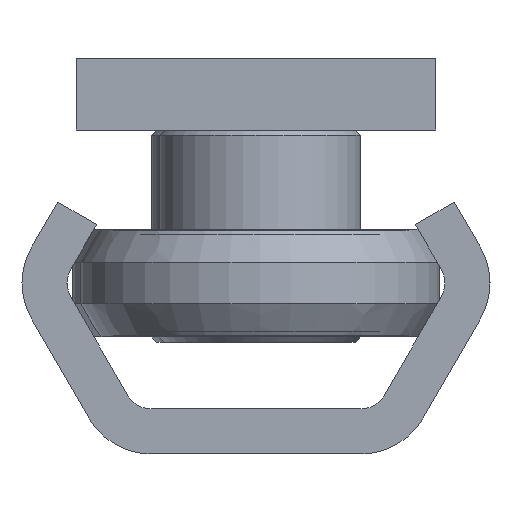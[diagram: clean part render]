
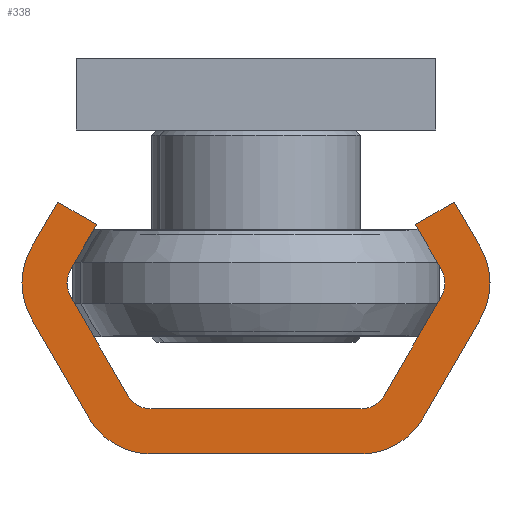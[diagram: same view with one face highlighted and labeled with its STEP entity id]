
A CAD part, left-side view. The second image highlights one B-rep face of the part: STEP entity #338.
In plain terms, the highlighted planar face has unit normal (-1, 0, 0).
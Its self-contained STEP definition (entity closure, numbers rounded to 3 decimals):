
#338 = ADVANCED_FACE( '', ( #732 ), #733, .F. );
#732 = FACE_OUTER_BOUND( '', #1316, .T. );
#733 = PLANE( '', #1317 );
#1316 = EDGE_LOOP( '', ( #2149, #2150, #2151, #2152, #2153, #2154, #2155, #2156, #2157, #2158, #2159, #2160, #2161, #2162, #2163, #2164, #2165, #2166, #2167, #2168 ) );
#1317 = AXIS2_PLACEMENT_3D( '', #2169, #2170, #2171 );
#2149 = ORIENTED_EDGE( '', *, *, #3267, .F. );
#2150 = ORIENTED_EDGE( '', *, *, #3257, .F. );
#2151 = ORIENTED_EDGE( '', *, *, #3268, .F. );
#2152 = ORIENTED_EDGE( '', *, *, #3269, .F. );
#2153 = ORIENTED_EDGE( '', *, *, #3270, .F. );
#2154 = ORIENTED_EDGE( '', *, *, #3271, .F. );
#2155 = ORIENTED_EDGE( '', *, *, #3272, .F. );
#2156 = ORIENTED_EDGE( '', *, *, #3262, .T. );
#2157 = ORIENTED_EDGE( '', *, *, #3273, .F. );
#2158 = ORIENTED_EDGE( '', *, *, #3274, .T. );
#2159 = ORIENTED_EDGE( '', *, *, #3275, .F. );
#2160 = ORIENTED_EDGE( '', *, *, #3276, .T. );
#2161 = ORIENTED_EDGE( '', *, *, #3277, .F. );
#2162 = ORIENTED_EDGE( '', *, *, #3278, .T. );
#2163 = ORIENTED_EDGE( '', *, *, #3211, .F. );
#2164 = ORIENTED_EDGE( '', *, *, #3279, .F. );
#2165 = ORIENTED_EDGE( '', *, *, #3280, .F. );
#2166 = ORIENTED_EDGE( '', *, *, #3281, .F. );
#2167 = ORIENTED_EDGE( '', *, *, #3282, .F. );
#2168 = ORIENTED_EDGE( '', *, *, #3283, .F. );
#2169 = CARTESIAN_POINT( '', ( 0., -5.825, -4. ) );
#2170 = DIRECTION( '', ( 1., 0., 0. ) );
#2171 = DIRECTION( '', ( 0., 0., -1. ) );
#3211 = EDGE_CURVE( '', #3652, #3653, #3654, .T. );
#3257 = EDGE_CURVE( '', #3731, #3732, #3733, .T. );
#3262 = EDGE_CURVE( '', #3740, #3741, #3742, .T. );
#3267 = EDGE_CURVE( '', #3732, #3749, #3750, .T. );
#3268 = EDGE_CURVE( '', #3751, #3731, #3752, .T. );
#3269 = EDGE_CURVE( '', #3753, #3751, #3754, .T. );
#3270 = EDGE_CURVE( '', #3755, #3753, #3756, .T. );
#3271 = EDGE_CURVE( '', #3757, #3755, #3758, .T. );
#3272 = EDGE_CURVE( '', #3740, #3757, #3759, .T. );
#3273 = EDGE_CURVE( '', #3760, #3741, #3761, .T. );
#3274 = EDGE_CURVE( '', #3760, #3762, #3763, .T. );
#3275 = EDGE_CURVE( '', #3764, #3762, #3765, .T. );
#3276 = EDGE_CURVE( '', #3764, #3766, #3767, .T. );
#3277 = EDGE_CURVE( '', #3768, #3766, #3769, .T. );
#3278 = EDGE_CURVE( '', #3768, #3653, #3770, .T. );
#3279 = EDGE_CURVE( '', #3771, #3652, #3772, .T. );
#3280 = EDGE_CURVE( '', #3773, #3771, #3774, .T. );
#3281 = EDGE_CURVE( '', #3775, #3773, #3776, .T. );
#3282 = EDGE_CURVE( '', #3777, #3775, #3778, .T. );
#3283 = EDGE_CURVE( '', #3749, #3777, #3779, .T. );
#3652 = VERTEX_POINT( '', #4296 );
#3653 = VERTEX_POINT( '', #4297 );
#3654 = LINE( '', #4298, #4299 );
#3731 = VERTEX_POINT( '', #4394 );
#3732 = VERTEX_POINT( '', #4395 );
#3733 = CIRCLE( '', #4396, 4. );
#3740 = VERTEX_POINT( '', #4405 );
#3741 = VERTEX_POINT( '', #4406 );
#3742 = CIRCLE( '', #4407, 1.5 );
#3749 = VERTEX_POINT( '', #4416 );
#3750 = LINE( '', #4417, #4418 );
#3751 = VERTEX_POINT( '', #4419 );
#3752 = LINE( '', #4420, #4421 );
#3753 = VERTEX_POINT( '', #4422 );
#3754 = CIRCLE( '', #4423, 4. );
#3755 = VERTEX_POINT( '', #4424 );
#3756 = LINE( '', #4425, #4426 );
#3757 = VERTEX_POINT( '', #4427 );
#3758 = LINE( '', #4428, #4429 );
#3759 = LINE( '', #4430, #4431 );
#3760 = VERTEX_POINT( '', #4432 );
#3761 = LINE( '', #4433, #4434 );
#3762 = VERTEX_POINT( '', #4435 );
#3763 = CIRCLE( '', #4436, 1.5 );
#3764 = VERTEX_POINT( '', #4437 );
#3765 = LINE( '', #4438, #4439 );
#3766 = VERTEX_POINT( '', #4440 );
#3767 = CIRCLE( '', #4441, 1.5 );
#3768 = VERTEX_POINT( '', #4442 );
#3769 = LINE( '', #4443, #4444 );
#3770 = CIRCLE( '', #4445, 1.5 );
#3771 = VERTEX_POINT( '', #4446 );
#3772 = LINE( '', #4447, #4448 );
#3773 = VERTEX_POINT( '', #4449 );
#3774 = LINE( '', #4450, #4451 );
#3775 = VERTEX_POINT( '', #4452 );
#3776 = CIRCLE( '', #4453, 4. );
#3777 = VERTEX_POINT( '', #4454 );
#3778 = LINE( '', #4455, #4456 );
#3779 = CIRCLE( '', #4457, 4. );
#4296 = CARTESIAN_POINT( '', ( 0., -8.856, -12.75 ) );
#4297 = CARTESIAN_POINT( '', ( 0., -10.299, -10.25 ) );
#4298 = CARTESIAN_POINT( '', ( 0., -8.856, -12.75 ) );
#4299 = VECTOR( '', #5061, 1000. );
#4394 = CARTESIAN_POINT( '', ( 0., 9.289, -2. ) );
#4395 = CARTESIAN_POINT( '', ( 0., 5.825, 0. ) );
#4396 = AXIS2_PLACEMENT_3D( '', #5125, #5126, #5127 );
#4405 = CARTESIAN_POINT( '', ( 0., 10.299, -10.25 ) );
#4406 = CARTESIAN_POINT( '', ( 0., 10.299, -8.75 ) );
#4407 = AXIS2_PLACEMENT_3D( '', #5133, #5134, #5135 );
#4416 = CARTESIAN_POINT( '', ( 0., -5.825, 0. ) );
#4417 = CARTESIAN_POINT( '', ( 0., 5.825, 0. ) );
#4418 = VECTOR( '', #5141, 1000. );
#4419 = CARTESIAN_POINT( '', ( 0., 12.464, -7.5 ) );
#4420 = CARTESIAN_POINT( '', ( 0., 12.464, -7.5 ) );
#4421 = VECTOR( '', #5142, 1000. );
#4422 = CARTESIAN_POINT( '', ( 0., 12.464, -11.5 ) );
#4423 = AXIS2_PLACEMENT_3D( '', #5143, #5144, #5145 );
#4424 = CARTESIAN_POINT( '', ( 0., 11.021, -14. ) );
#4425 = CARTESIAN_POINT( '', ( 0., 11.021, -14. ) );
#4426 = VECTOR( '', #5146, 1000. );
#4427 = CARTESIAN_POINT( '', ( 0., 8.856, -12.75 ) );
#4428 = CARTESIAN_POINT( '', ( 0., 8.856, -12.75 ) );
#4429 = VECTOR( '', #5147, 1000. );
#4430 = CARTESIAN_POINT( '', ( 0., 10.299, -10.25 ) );
#4431 = VECTOR( '', #5148, 1000. );
#4432 = CARTESIAN_POINT( '', ( 0., 7.124, -3.25 ) );
#4433 = CARTESIAN_POINT( '', ( 0., 7.124, -3.25 ) );
#4434 = VECTOR( '', #5149, 1000. );
#4435 = CARTESIAN_POINT( '', ( 0., 5.825, -2.5 ) );
#4436 = AXIS2_PLACEMENT_3D( '', #5150, #5151, #5152 );
#4437 = CARTESIAN_POINT( '', ( 0., -5.825, -2.5 ) );
#4438 = CARTESIAN_POINT( '', ( 0., -5.825, -2.5 ) );
#4439 = VECTOR( '', #5153, 1000. );
#4440 = CARTESIAN_POINT( '', ( 0., -7.124, -3.25 ) );
#4441 = AXIS2_PLACEMENT_3D( '', #5154, #5155, #5156 );
#4442 = CARTESIAN_POINT( '', ( 0., -10.299, -8.75 ) );
#4443 = CARTESIAN_POINT( '', ( 0., -10.299, -8.75 ) );
#4444 = VECTOR( '', #5157, 1000. );
#4445 = AXIS2_PLACEMENT_3D( '', #5158, #5159, #5160 );
#4446 = CARTESIAN_POINT( '', ( 0., -11.021, -14. ) );
#4447 = CARTESIAN_POINT( '', ( 0., -11.021, -14. ) );
#4448 = VECTOR( '', #5161, 1000. );
#4449 = CARTESIAN_POINT( '', ( 0., -12.464, -11.5 ) );
#4450 = CARTESIAN_POINT( '', ( 0., -12.464, -11.5 ) );
#4451 = VECTOR( '', #5162, 1000. );
#4452 = CARTESIAN_POINT( '', ( 0., -12.464, -7.5 ) );
#4453 = AXIS2_PLACEMENT_3D( '', #5163, #5164, #5165 );
#4454 = CARTESIAN_POINT( '', ( 0., -9.289, -2. ) );
#4455 = CARTESIAN_POINT( '', ( 0., -9.289, -2. ) );
#4456 = VECTOR( '', #5166, 1000. );
#4457 = AXIS2_PLACEMENT_3D( '', #5167, #5168, #5169 );
#5061 = DIRECTION( '', ( 0., -0.5, 0.866 ) );
#5125 = CARTESIAN_POINT( '', ( 0., 5.825, -4. ) );
#5126 = DIRECTION( '', ( 1., 0., 0. ) );
#5127 = DIRECTION( '', ( 0., 0., -1. ) );
#5133 = CARTESIAN_POINT( '', ( 0., 9., -9.5 ) );
#5134 = DIRECTION( '', ( 1., 0., 0. ) );
#5135 = DIRECTION( '', ( 0., 0., -1. ) );
#5141 = DIRECTION( '', ( 0., -1., 0. ) );
#5142 = DIRECTION( '', ( 0., -0.5, 0.866 ) );
#5143 = CARTESIAN_POINT( '', ( 0., 9., -9.5 ) );
#5144 = DIRECTION( '', ( 1., 0., 0. ) );
#5145 = DIRECTION( '', ( 0., 0., -1. ) );
#5146 = DIRECTION( '', ( 0., 0.5, 0.866 ) );
#5147 = DIRECTION( '', ( 0., 0.866, -0.5 ) );
#5148 = DIRECTION( '', ( 0., -0.5, -0.866 ) );
#5149 = DIRECTION( '', ( 0., 0.5, -0.866 ) );
#5150 = CARTESIAN_POINT( '', ( 0., 5.825, -4. ) );
#5151 = DIRECTION( '', ( 1., 0., 0. ) );
#5152 = DIRECTION( '', ( 0., 0., -1. ) );
#5153 = DIRECTION( '', ( 0., 1., 0. ) );
#5154 = CARTESIAN_POINT( '', ( 0., -5.825, -4. ) );
#5155 = DIRECTION( '', ( 1., 0., 0. ) );
#5156 = DIRECTION( '', ( 0., 0., -1. ) );
#5157 = DIRECTION( '', ( 0., 0.5, 0.866 ) );
#5158 = CARTESIAN_POINT( '', ( 0., -9., -9.5 ) );
#5159 = DIRECTION( '', ( 1., 0., 0. ) );
#5160 = DIRECTION( '', ( 0., 0., -1. ) );
#5161 = DIRECTION( '', ( 0., 0.866, 0.5 ) );
#5162 = DIRECTION( '', ( 0., 0.5, -0.866 ) );
#5163 = CARTESIAN_POINT( '', ( 0., -9., -9.5 ) );
#5164 = DIRECTION( '', ( 1., 0., 0. ) );
#5165 = DIRECTION( '', ( 0., 0., -1. ) );
#5166 = DIRECTION( '', ( 0., -0.5, -0.866 ) );
#5167 = CARTESIAN_POINT( '', ( 0., -5.825, -4. ) );
#5168 = DIRECTION( '', ( 1., 0., 0. ) );
#5169 = DIRECTION( '', ( 0., 0., -1. ) );
